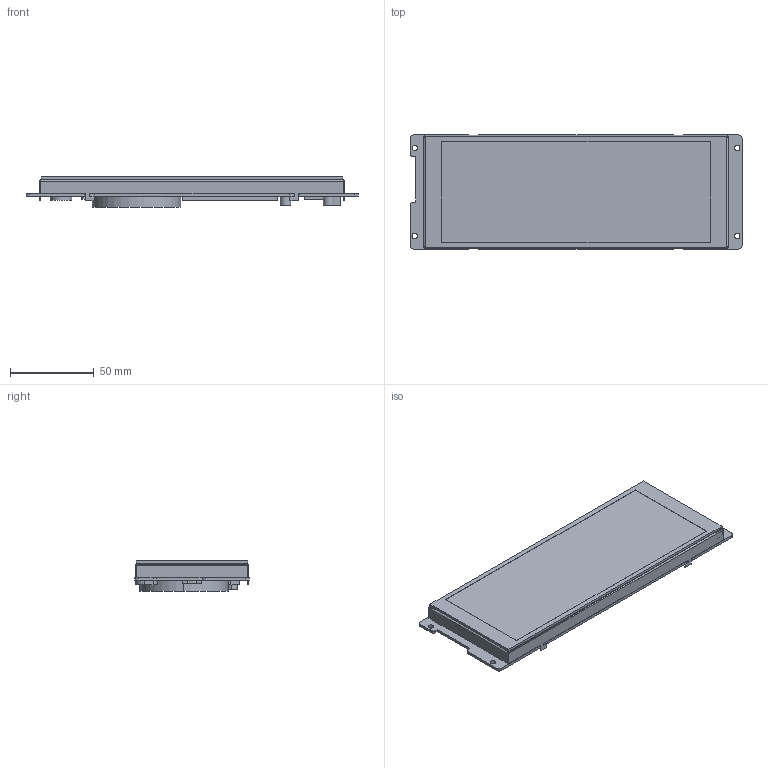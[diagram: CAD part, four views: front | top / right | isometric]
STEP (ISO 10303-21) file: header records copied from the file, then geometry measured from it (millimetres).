
FILE_DESCRIPTION((''),'2;1');
FILE_NAME('6-8_ASM20191016_ASM','2024-10-21T',('Administrator'),(''),'PRO/ENGINEER BY PARAMETRIC TECHNOLOGY CORPORATION, 2014320','PRO/ENGINEER BY PARAMETRIC TECHNOLOGY CORPORATION, 2014320','');
FILE_SCHEMA(('CONFIG_CONTROL_DESIGN','SHAPE_APPEARANCE_LAYERS_GROUPS'));
Length unit declared in the file: millimetre
Products named in the file (6): 6-8-BOX_28; LCM_3_2; 6-8_ASM_24_ASM; RTP; PCB241021; 6-8_ASM20191016_ASM
Assembly tree (5 placements, depth 3):
  6-8_ASM20191016_ASM
    6-8_ASM_24_ASM
      6-8-BOX_28
      LCM_3_2
    RTP
    PCB241021
Bounding box: 198.8 x 68.3 x 18 mm (x, y, z)
Volume: 120706 mm3; surface area: 95199.9 mm2
Topology: 4 solids, 4 shells, 247 faces, 646 edges, 420 vertices
Faces by surface type: plane 179, cylinder 44, bspline 24
Entity records: 10442 total; most frequent: CARTESIAN_POINT 2249, ORIENTED_EDGE 1292, DIRECTION 1142, PRESENTATION_STYLE_ASSIGNMENT 654, STYLED_ITEM 651, CURVE_STYLE 646, EDGE_CURVE 646, VECTOR 526
